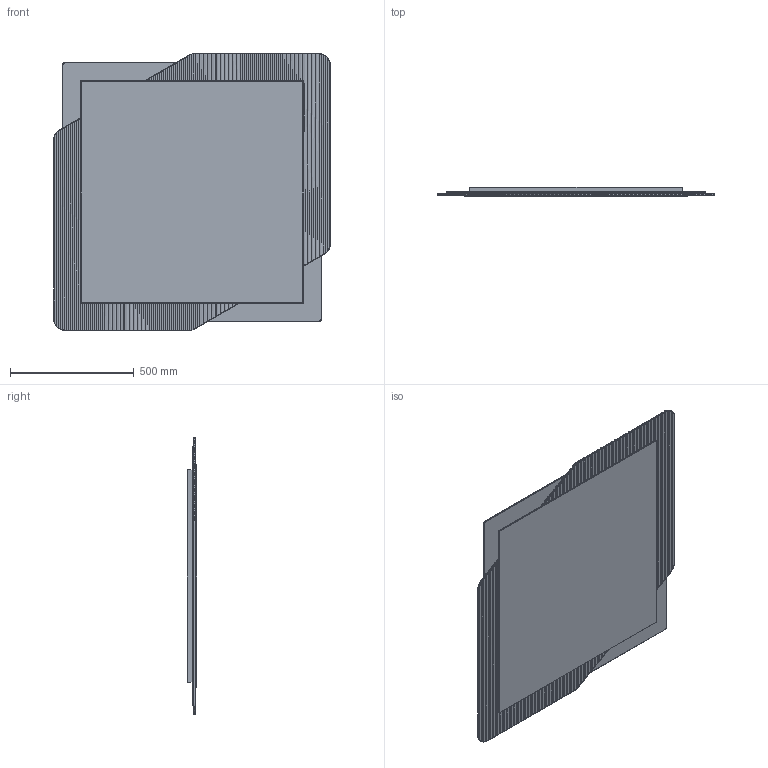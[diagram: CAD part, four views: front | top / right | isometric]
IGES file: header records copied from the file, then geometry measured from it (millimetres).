
Global section: file name: C:\Users\l.marzoli\Desktop\3D_2024\x-web\SHIFT-mirror\112x112\3D_SHIFT-mirror-112.igs; native system: Rhinoceros ( Aug 11 2021 ); preprocessor: Trout Lake IGES 012 Aug 11 2021; date: 240429.163328; units: millimetre
Bounding box: 1120 x 38.51 x 1120 mm (x, y, z)
Surface area: 6546463.5 mm2 (no closed solid volume)
Topology: 0 solids, 0 shells, 931 faces, 7899 edges, 7899 vertices
Faces by surface type: bspline 931
